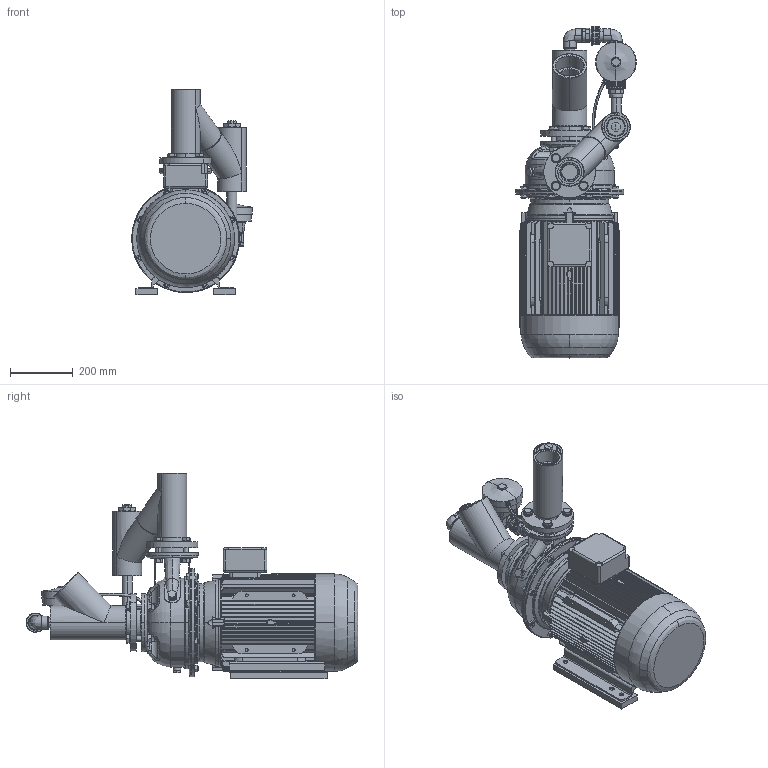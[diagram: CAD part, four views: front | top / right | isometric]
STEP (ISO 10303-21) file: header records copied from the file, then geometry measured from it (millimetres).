
FILE_DESCRIPTION (( 'STEP AP203' ), '1' );
FILE_NAME ('Lowara SHE 50-250 z.a.z auto. by-pass.STEP', '2011-04-07T10:01:48', ( '' ), ( '' ), 'SwSTEP 2.0', 'SolidWorks 2010', '' );
FILE_SCHEMA (( 'CONFIG_CONTROL_DESIGN' ));
Products named in the file (1): Lowara SHE 50-250 z.a.z auto. by-pass
Bounding box: 385.5 x 1061.39 x 658.48 mm (x, y, z)
Volume: 51604829 mm3; surface area: 3422664 mm2
Topology: 67 solids, 73 shells, 2943 faces, 7404 edges, 4639 vertices
Faces by surface type: plane 1121, cylinder 906, cone 504, bspline 366, torus 46
Entity records: 119125 total; most frequent: CARTESIAN_POINT 51850, ORIENTED_EDGE 14636, DIRECTION 13415, EDGE_CURVE 7318, AXIS2_PLACEMENT_3D 5359, VERTEX_POINT 4639, EDGE_LOOP 3237, ADVANCED_FACE 2943
